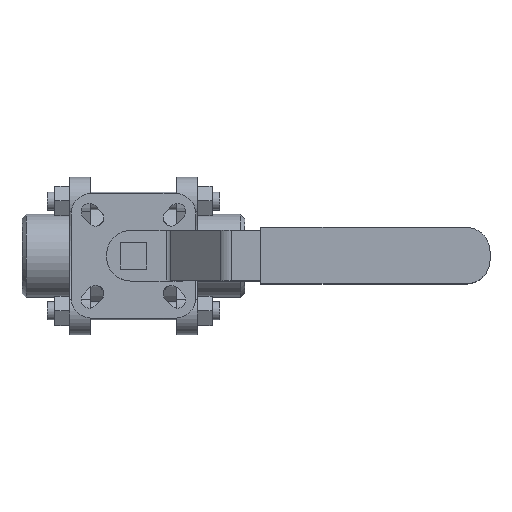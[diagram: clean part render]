
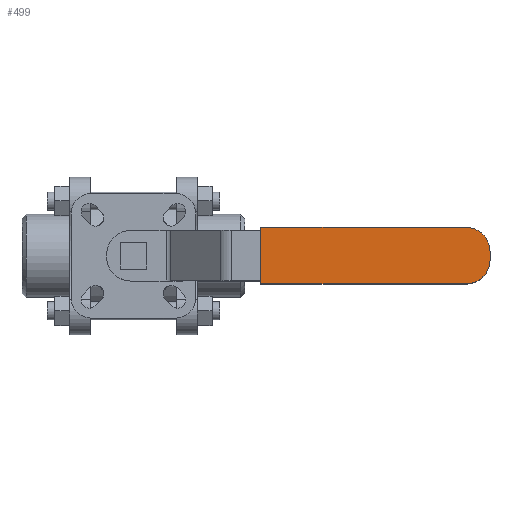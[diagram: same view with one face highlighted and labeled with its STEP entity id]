
A CAD part, top view. The second image highlights one B-rep face of the part: STEP entity #499.
In plain terms, the highlighted planar face has unit normal (0, 0, 1).
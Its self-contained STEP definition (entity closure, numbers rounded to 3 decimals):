
#499 = ADVANCED_FACE( '', ( #1211 ), #1212, .F. );
#1211 = FACE_OUTER_BOUND( '', #2577, .T. );
#1212 = PLANE( '', #2578 );
#2577 = EDGE_LOOP( '', ( #5673, #5674, #5675, #5676, #5677, #5678 ) );
#2578 = AXIS2_PLACEMENT_3D( '', #5679, #5680, #5681 );
#5673 = ORIENTED_EDGE( '', *, *, #7746, .T. );
#5674 = ORIENTED_EDGE( '', *, *, #7747, .T. );
#5675 = ORIENTED_EDGE( '', *, *, #7748, .T. );
#5676 = ORIENTED_EDGE( '', *, *, #7749, .F. );
#5677 = ORIENTED_EDGE( '', *, *, #7577, .F. );
#5678 = ORIENTED_EDGE( '', *, *, #7551, .T. );
#5679 = CARTESIAN_POINT( '', ( 120., -9.5, 23. ) );
#5680 = DIRECTION( '', ( 0., 0., -1. ) );
#5681 = DIRECTION( '', ( -1., 0., 0. ) );
#7551 = EDGE_CURVE( '', #8715, #8713, #8716, .F. );
#7577 = EDGE_CURVE( '', #8715, #8754, #8755, .T. );
#7746 = EDGE_CURVE( '', #8713, #9014, #9015, .T. );
#7747 = EDGE_CURVE( '', #9014, #9016, #9017, .F. );
#7748 = EDGE_CURVE( '', #9016, #9018, #9019, .T. );
#7749 = EDGE_CURVE( '', #8754, #9018, #9020, .T. );
#8713 = VERTEX_POINT( '', #11718 );
#8715 = VERTEX_POINT( '', #11721 );
#8716 = CIRCLE( '', #11722, 8. );
#8754 = VERTEX_POINT( '', #11809 );
#8755 = LINE( '', #11810, #11811 );
#9014 = VERTEX_POINT( '', #12399 );
#9015 = LINE( '', #12400, #12401 );
#9016 = VERTEX_POINT( '', #12402 );
#9017 = CIRCLE( '', #12403, 8. );
#9018 = VERTEX_POINT( '', #12404 );
#9019 = LINE( '', #12405, #12406 );
#9020 = LINE( '', #12407, #12408 );
#11718 = CARTESIAN_POINT( '', ( 120., -1.5, 23. ) );
#11721 = CARTESIAN_POINT( '', ( 112., -9.5, 23. ) );
#11722 = AXIS2_PLACEMENT_3D( '', #14157, #14158, #14159 );
#11809 = CARTESIAN_POINT( '', ( 42.899, -9.5, 23. ) );
#11810 = CARTESIAN_POINT( '', ( 120., -9.5, 23. ) );
#11811 = VECTOR( '', #14171, 1000. );
#12399 = CARTESIAN_POINT( '', ( 120., 1.5, 23. ) );
#12400 = CARTESIAN_POINT( '', ( 120., -9.5, 23. ) );
#12401 = VECTOR( '', #14280, 1000. );
#12402 = CARTESIAN_POINT( '', ( 112., 9.5, 23. ) );
#12403 = AXIS2_PLACEMENT_3D( '', #14281, #14282, #14283 );
#12404 = CARTESIAN_POINT( '', ( 42.899, 9.5, 23. ) );
#12405 = CARTESIAN_POINT( '', ( 120., 9.5, 23. ) );
#12406 = VECTOR( '', #14284, 1000. );
#12407 = CARTESIAN_POINT( '', ( 42.899, -9.5, 23. ) );
#12408 = VECTOR( '', #14285, 1000. );
#14157 = CARTESIAN_POINT( '', ( 112., -1.5, 23. ) );
#14158 = DIRECTION( '', ( 0., 0., -1. ) );
#14159 = DIRECTION( '', ( -1., 0., 0. ) );
#14171 = DIRECTION( '', ( -1., 0., 0. ) );
#14280 = DIRECTION( '', ( 0., 1., 0. ) );
#14281 = CARTESIAN_POINT( '', ( 112., 1.5, 23. ) );
#14282 = DIRECTION( '', ( 0., 0., -1. ) );
#14283 = DIRECTION( '', ( -1., 0., 0. ) );
#14284 = DIRECTION( '', ( -1., 0., 0. ) );
#14285 = DIRECTION( '', ( 0., 1., 0. ) );
